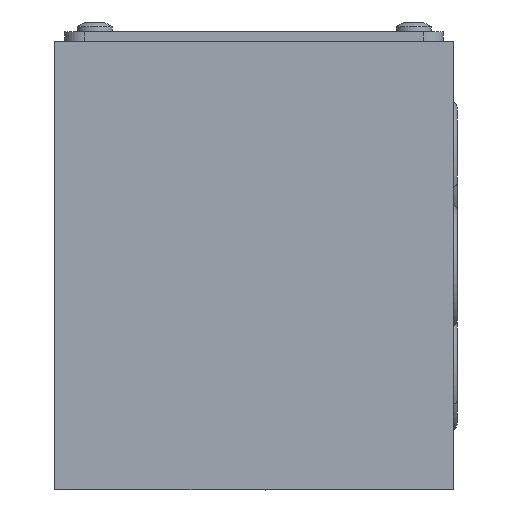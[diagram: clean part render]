
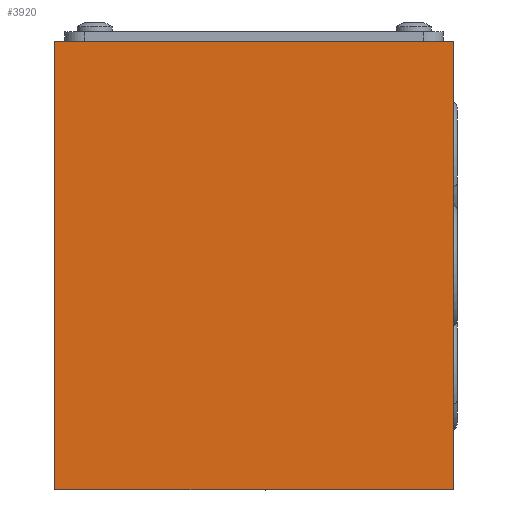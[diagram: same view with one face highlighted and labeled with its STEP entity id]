
A CAD part, left-side view. The second image highlights one B-rep face of the part: STEP entity #3920.
In plain terms, the highlighted planar face has unit normal (-1, 0, 0) as drawn and (0, 0, 1) by its records, which use the part's own axes.
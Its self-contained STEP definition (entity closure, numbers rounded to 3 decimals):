
#2655 = VERTEX_POINT ( 'NONE', #100965 ) ;
#3920 = ADVANCED_FACE ( 'NONE', ( #89440 ), #14698, .T. ) ;
#6147 = VECTOR ( 'NONE', #102502, 1000. ) ;
#10592 = VECTOR ( 'NONE', #102917, 1000. ) ;
#14640 = VECTOR ( 'NONE', #43089, 1000. ) ;
#14698 = PLANE ( 'NONE',  #65109 ) ;
#21872 = EDGE_CURVE ( 'NONE', #29444, #35871, #97882, .T. ) ;
#23177 = CARTESIAN_POINT ( 'NONE',  ( -22.5, 20., 39.25 ) ) ;
#25310 = DIRECTION ( 'NONE',  ( -1., 0., 0. ) ) ;
#25560 = ORIENTED_EDGE ( 'NONE', *, *, #21872, .T. ) ;
#27588 = EDGE_LOOP ( 'NONE', ( #33219, #44500, #25560, #75077 ) ) ;
#29444 = VERTEX_POINT ( 'NONE', #88313 ) ;
#30948 = CARTESIAN_POINT ( 'NONE',  ( -22.5, -20., 39.25 ) ) ;
#33219 = ORIENTED_EDGE ( 'NONE', *, *, #72285, .T. ) ;
#33694 = VERTEX_POINT ( 'NONE', #42992 ) ;
#35871 = VERTEX_POINT ( 'NONE', #100875 ) ;
#36363 = CARTESIAN_POINT ( 'NONE',  ( 22.5, 20., 39.25 ) ) ;
#39064 = DIRECTION ( 'NONE',  ( 1., 0., 0. ) ) ;
#42992 = CARTESIAN_POINT ( 'NONE',  ( -22.5, 20., 39.25 ) ) ;
#43089 = DIRECTION ( 'NONE',  ( 0., 1., 0. ) ) ;
#44500 = ORIENTED_EDGE ( 'NONE', *, *, #89371, .T. ) ;
#54714 = CARTESIAN_POINT ( 'NONE',  ( -22.5, -20., 39.25 ) ) ;
#57079 = CARTESIAN_POINT ( 'NONE',  ( -22.5, 20., 39.25 ) ) ;
#65109 = AXIS2_PLACEMENT_3D ( 'NONE', #30948, #87312, #39064 ) ;
#67975 = LINE ( 'NONE', #23177, #6147 ) ;
#72285 = EDGE_CURVE ( 'NONE', #33694, #2655, #67975, .T. ) ;
#75077 = ORIENTED_EDGE ( 'NONE', *, *, #77832, .T. ) ;
#77832 = EDGE_CURVE ( 'NONE', #35871, #33694, #96926, .T. ) ;
#87312 = DIRECTION ( 'NONE',  ( 0., 0., 1. ) ) ;
#88313 = CARTESIAN_POINT ( 'NONE',  ( 22.5, -20., 39.25 ) ) ;
#89371 = EDGE_CURVE ( 'NONE', #2655, #29444, #93805, .T. ) ;
#89440 = FACE_OUTER_BOUND ( 'NONE', #27588, .T. ) ;
#93805 = LINE ( 'NONE', #54714, #10592 ) ;
#94342 = VECTOR ( 'NONE', #25310, 1000. ) ;
#96926 = LINE ( 'NONE', #57079, #94342 ) ;
#97882 = LINE ( 'NONE', #36363, #14640 ) ;
#100875 = CARTESIAN_POINT ( 'NONE',  ( 22.5, 20., 39.25 ) ) ;
#100965 = CARTESIAN_POINT ( 'NONE',  ( -22.5, -20., 39.25 ) ) ;
#102502 = DIRECTION ( 'NONE',  ( 0., -1., 0. ) ) ;
#102917 = DIRECTION ( 'NONE',  ( 1., 0., 0. ) ) ;
